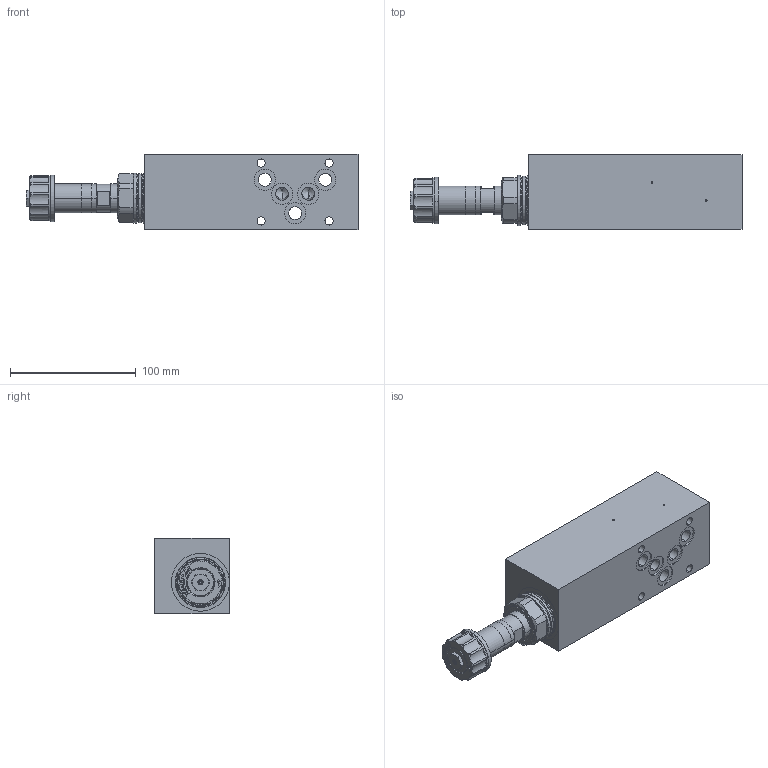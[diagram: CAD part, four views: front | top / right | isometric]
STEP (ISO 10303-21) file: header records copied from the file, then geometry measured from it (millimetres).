
FILE_DESCRIPTION (( 'STEP AP214' ), '1' );
FILE_NAME ('QDPSA10-P.STEP', '2017-04-19T09:45:01', ( '' ), ( '' ), 'SwSTEP 2.0', 'SolidWorks 2016', '' );
FILE_SCHEMA (( 'AUTOMOTIVE_DESIGN' ));
Length unit declared in the file: millimetre
Products named in the file (1): QDPSA10-P
Bounding box: 263.9 x 59.5 x 60 mm (x, y, z)
Volume: 634858.8 mm3; surface area: 82306.8 mm2
Topology: 6 solids, 9 shells, 466 faces, 1127 edges, 704 vertices
Faces by surface type: plane 185, cylinder 135, cone 104, bspline 16, torus 14, sphere 12
Entity records: 19624 total; most frequent: CARTESIAN_POINT 3498, DIRECTION 2329, ORIENTED_EDGE 2206, EDGE_CURVE 1103, AXIS2_PLACEMENT_3D 873, VERTEX_POINT 704, LINE 583, VECTOR 583
